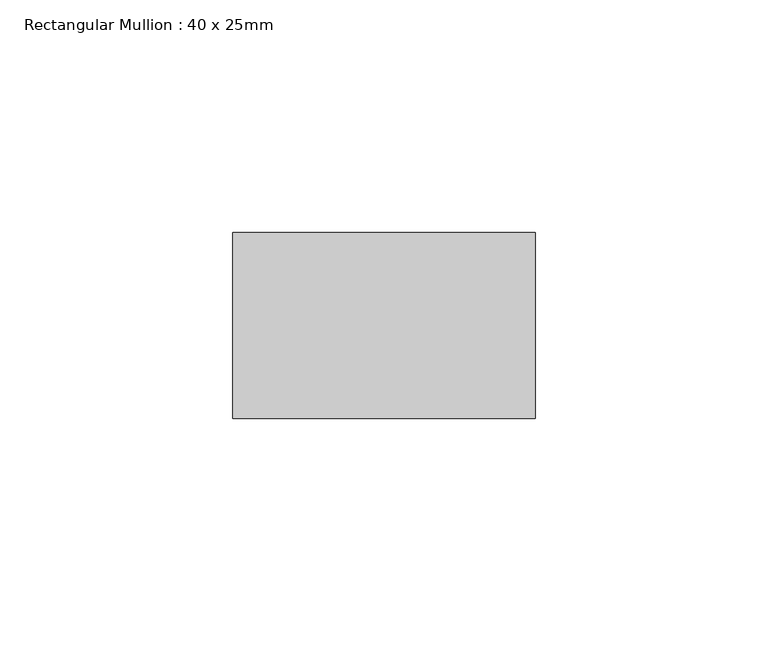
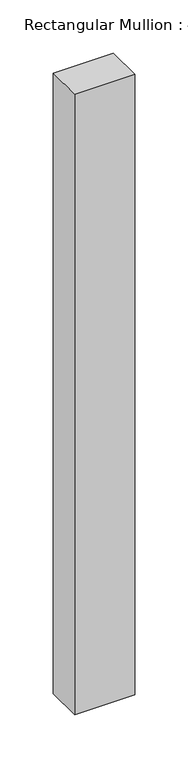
"""IFC4 building model written with IfcOpenShell, lengths in millimetres: member geometry, Rectangular Mullion : 40 x 25mm."""

from ifc_helpers import new_model, si_unit, frame, origin, place, context, project, spatial, polyline, outline, extrude, source, transform, mapped, element, save


def rectangular_mullion_40_x_25mm_0308359f(model_context):
    return source(origin(), model_context, "Body", "SweptSolid", [
        extrude(outline(polyline([(0.0, -20.0), (0.0, -60.0), (-65.0, -60.0), (-65.0, -20.0), (0.0, -20.0)])), frame((0.0, 0.0, -711.0254749), z_axis=(0.0, 0.0, 1.0), x_axis=(1.0, 0.0, 0.0)), (0.0, 0.0, 1.0), 711.0254749),
    ])


if __name__ == "__main__":
    model = new_model("IFC4")
    model_context = context("Model", 3, world=origin())
    ifc_project = project(units=[si_unit("LENGTHUNIT", "METRE", prefix="MILLI")], contexts=[model_context])
    site = spatial("IfcSite", under=ifc_project)
    building = spatial("IfcBuilding", under=site)
    placement = place(None, origin())
    rectangular_mullion_40_x_25mm_shape = rectangular_mullion_40_x_25mm_0308359f(model_context)
    element("IfcMember", 1, ObjectType="Rectangular Mullion : 40 x 25mm", at=placement, inside=building, context=model_context, shape_type="MappedRepresentation", body=[
        mapped(rectangular_mullion_40_x_25mm_shape, transform((0.0, 0.0, 0.0), x_axis=(1.0, 0.0, 0.0), y_axis=(0.0, 1.0, 0.0), z_axis=(0.0, 0.0, 1.0))),
    ])
    save(model, "model.ifc")
